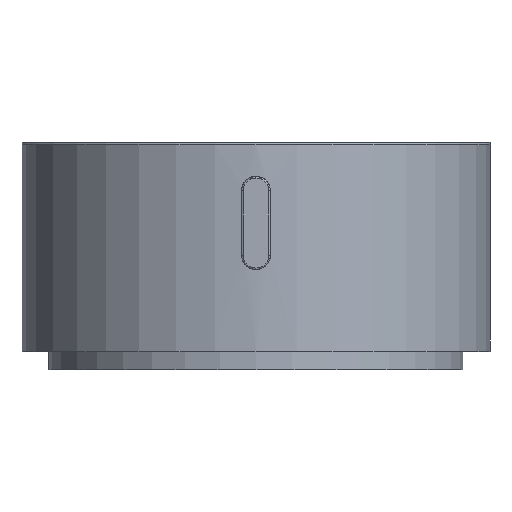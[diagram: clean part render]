
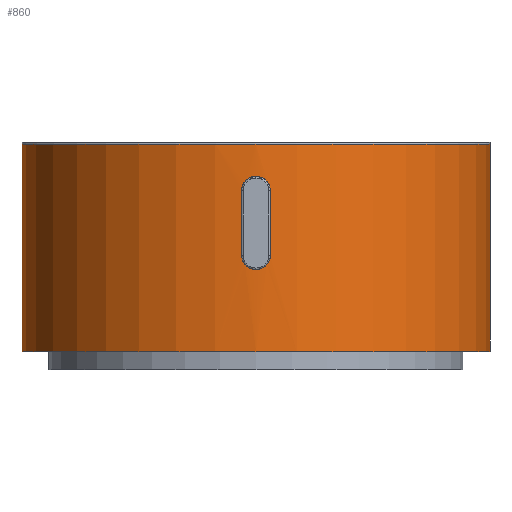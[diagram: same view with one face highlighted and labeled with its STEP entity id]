
A CAD part, front view. The second image highlights one B-rep face of the part: STEP entity #860.
In plain terms, the highlighted cylindrical face has radius 32.5 mm (diameter 65 mm), a partial arc.
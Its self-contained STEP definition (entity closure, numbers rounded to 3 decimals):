
#49=CARTESIAN_POINT('',(-32.5,0.0,45.9));
#50=VERTEX_POINT('',#49);
#51=CARTESIAN_POINT('',(32.5,0.0,45.9));
#52=VERTEX_POINT('',#51);
#60=CARTESIAN_POINT('',(0.0,0.0,45.9));
#61=DIRECTION('',(0.0,0.0,-1.0));
#62=DIRECTION('',(1.0,0.0,0.0));
#63=AXIS2_PLACEMENT_3D('',#60,#61,#62);
#64=CIRCLE('',#63,32.5);
#65=EDGE_CURVE('',#52,#50,#64,.T.);
#599=CARTESIAN_POINT('',(-2.0,-32.438,59.3));
#600=VERTEX_POINT('',#599);
#607=CARTESIAN_POINT('',(2.0,-32.438,59.3));
#608=VERTEX_POINT('',#607);
#609=CARTESIAN_POINT('',(-2.0,-32.438,59.3));
#610=CARTESIAN_POINT('',(-2.0,-32.438,59.24));
#611=CARTESIAN_POINT('',(-1.995,-32.439,59.121));
#612=CARTESIAN_POINT('',(-1.971,-32.44,58.943));
#613=CARTESIAN_POINT('',(-1.931,-32.443,58.767));
#614=CARTESIAN_POINT('',(-1.875,-32.446,58.597));
#615=CARTESIAN_POINT('',(-1.805,-32.45,58.431));
#616=CARTESIAN_POINT('',(-1.719,-32.455,58.273));
#617=CARTESIAN_POINT('',(-1.62,-32.46,58.123));
#618=CARTESIAN_POINT('',(-1.508,-32.465,57.982));
#619=CARTESIAN_POINT('',(-1.384,-32.471,57.852));
#620=CARTESIAN_POINT('',(-1.248,-32.476,57.734));
#621=CARTESIAN_POINT('',(-1.103,-32.481,57.628));
#622=CARTESIAN_POINT('',(-0.949,-32.486,57.536));
#623=CARTESIAN_POINT('',(-0.787,-32.491,57.458));
#624=CARTESIAN_POINT('',(-0.618,-32.494,57.395));
#625=CARTESIAN_POINT('',(-0.445,-32.497,57.347));
#626=CARTESIAN_POINT('',(-0.268,-32.499,57.315));
#627=CARTESIAN_POINT('',(-0.09,-32.5,57.299));
#628=CARTESIAN_POINT('',(0.09,-32.5,57.299));
#629=CARTESIAN_POINT('',(0.269,-32.499,57.315));
#630=CARTESIAN_POINT('',(0.445,-32.497,57.347));
#631=CARTESIAN_POINT('',(0.618,-32.494,57.395));
#632=CARTESIAN_POINT('',(0.787,-32.491,57.458));
#633=CARTESIAN_POINT('',(0.948,-32.486,57.536));
#634=CARTESIAN_POINT('',(1.103,-32.481,57.628));
#635=CARTESIAN_POINT('',(1.248,-32.476,57.734));
#636=CARTESIAN_POINT('',(1.384,-32.471,57.852));
#637=CARTESIAN_POINT('',(1.508,-32.465,57.982));
#638=CARTESIAN_POINT('',(1.62,-32.46,58.122));
#639=CARTESIAN_POINT('',(1.719,-32.455,58.273));
#640=CARTESIAN_POINT('',(1.804,-32.45,58.431));
#641=CARTESIAN_POINT('',(1.875,-32.446,58.596));
#642=CARTESIAN_POINT('',(1.93,-32.443,58.767));
#643=CARTESIAN_POINT('',(1.97,-32.44,58.942));
#644=CARTESIAN_POINT('',(1.995,-32.439,59.12));
#645=CARTESIAN_POINT('',(2.0,-32.438,59.24));
#646=CARTESIAN_POINT('',(2.0,-32.438,59.3));
#647=B_SPLINE_CURVE_WITH_KNOTS('',3,(#609,#610,#611,#612,#613,#614,#615,#616,#617,#618,#619,#620,#621,#622,#623,#624,#625,#626,#627,#628,#629,#630,#631,#632,#633,#634,#635,#636,#637,#638,#639,#640,#641,#642,#643,#644,#645,#646),.UNSPECIFIED.,.F.,.U.,(4,1,1,1,1,1,1,1,1,1,1,1,1,1,1,1,1,1,1,1,1,1,1,1,1,1,1,1,1,1,1,1,1,1,1,4),(0.0,0.029,0.057,0.086,0.114,0.143,0.171,0.2,0.229,0.257,0.286,0.314,0.343,0.371,0.4,0.429,0.457,0.486,0.514,0.543,0.571,0.6,0.629,0.657,0.686,0.714,0.743,0.771,0.8,0.829,0.857,0.886,0.914,0.943,0.971,1.0),.UNSPECIFIED.);
#648=EDGE_CURVE('',#600,#608,#647,.T.);
#757=CARTESIAN_POINT('',(2.0,-32.438,68.3));
#758=VERTEX_POINT('',#757);
#767=CARTESIAN_POINT('',(2.0,-32.438,68.3));
#768=DIRECTION('',(0.0,0.0,-1.0));
#769=VECTOR('',#768,9.0);
#770=LINE('',#767,#769);
#771=EDGE_CURVE('',#758,#608,#770,.T.);
#776=CARTESIAN_POINT('',(0.0,0.0,45.9));
#777=DIRECTION('',(0.0,0.0,1.0));
#778=DIRECTION('',(0.0,1.0,0.0));
#779=AXIS2_PLACEMENT_3D('',#776,#777,#778);
#780=CYLINDRICAL_SURFACE('',#779,32.5);
#781=ORIENTED_EDGE('',*,*,#65,.F.);
#782=CARTESIAN_POINT('',(32.5,0.,74.7));
#783=VERTEX_POINT('',#782);
#784=CARTESIAN_POINT('',(32.5,0.0,45.9));
#785=DIRECTION('',(0.,0.0,1.));
#786=VECTOR('',#785,28.8);
#787=LINE('',#784,#786);
#788=EDGE_CURVE('',#52,#783,#787,.T.);
#789=ORIENTED_EDGE('',*,*,#788,.T.);
#790=CARTESIAN_POINT('',(-32.5,0.,74.7));
#791=VERTEX_POINT('',#790);
#792=CARTESIAN_POINT('',(0.0,0.0,74.7));
#793=DIRECTION('',(0.0,0.0,-1.0));
#794=DIRECTION('',(1.0,0.0,0.0));
#795=AXIS2_PLACEMENT_3D('',#792,#793,#794);
#796=CIRCLE('',#795,32.5);
#797=EDGE_CURVE('',#783,#791,#796,.T.);
#798=ORIENTED_EDGE('',*,*,#797,.T.);
#799=CARTESIAN_POINT('',(-32.5,0.0,45.9));
#800=DIRECTION('',(0.,0.0,1.));
#801=VECTOR('',#800,28.8);
#802=LINE('',#799,#801);
#803=EDGE_CURVE('',#50,#791,#802,.T.);
#804=ORIENTED_EDGE('',*,*,#803,.F.);
#805=EDGE_LOOP('',(#781,#789,#798,#804));
#806=FACE_OUTER_BOUND('',#805,.T.);
#807=CARTESIAN_POINT('',(-2.0,-32.438,68.3));
#808=VERTEX_POINT('',#807);
#809=CARTESIAN_POINT('',(2.0,-32.438,68.3));
#810=CARTESIAN_POINT('',(2.0,-32.438,68.36));
#811=CARTESIAN_POINT('',(1.995,-32.439,68.479));
#812=CARTESIAN_POINT('',(1.971,-32.44,68.657));
#813=CARTESIAN_POINT('',(1.931,-32.443,68.833));
#814=CARTESIAN_POINT('',(1.875,-32.446,69.003));
#815=CARTESIAN_POINT('',(1.805,-32.45,69.169));
#816=CARTESIAN_POINT('',(1.719,-32.455,69.327));
#817=CARTESIAN_POINT('',(1.62,-32.46,69.477));
#818=CARTESIAN_POINT('',(1.508,-32.465,69.618));
#819=CARTESIAN_POINT('',(1.384,-32.471,69.748));
#820=CARTESIAN_POINT('',(1.248,-32.476,69.866));
#821=CARTESIAN_POINT('',(1.103,-32.481,69.972));
#822=CARTESIAN_POINT('',(0.949,-32.486,70.064));
#823=CARTESIAN_POINT('',(0.787,-32.491,70.142));
#824=CARTESIAN_POINT('',(0.618,-32.494,70.205));
#825=CARTESIAN_POINT('',(0.445,-32.497,70.253));
#826=CARTESIAN_POINT('',(0.268,-32.499,70.285));
#827=CARTESIAN_POINT('',(0.09,-32.5,70.301));
#828=CARTESIAN_POINT('',(-0.09,-32.5,70.301));
#829=CARTESIAN_POINT('',(-0.269,-32.499,70.285));
#830=CARTESIAN_POINT('',(-0.445,-32.497,70.253));
#831=CARTESIAN_POINT('',(-0.618,-32.494,70.205));
#832=CARTESIAN_POINT('',(-0.787,-32.491,70.142));
#833=CARTESIAN_POINT('',(-0.948,-32.486,70.064));
#834=CARTESIAN_POINT('',(-1.103,-32.481,69.972));
#835=CARTESIAN_POINT('',(-1.248,-32.476,69.866));
#836=CARTESIAN_POINT('',(-1.384,-32.471,69.748));
#837=CARTESIAN_POINT('',(-1.508,-32.465,69.618));
#838=CARTESIAN_POINT('',(-1.62,-32.46,69.478));
#839=CARTESIAN_POINT('',(-1.719,-32.455,69.327));
#840=CARTESIAN_POINT('',(-1.804,-32.45,69.169));
#841=CARTESIAN_POINT('',(-1.875,-32.446,69.004));
#842=CARTESIAN_POINT('',(-1.93,-32.443,68.833));
#843=CARTESIAN_POINT('',(-1.97,-32.44,68.658));
#844=CARTESIAN_POINT('',(-1.995,-32.439,68.48));
#845=CARTESIAN_POINT('',(-2.0,-32.438,68.36));
#846=CARTESIAN_POINT('',(-2.0,-32.438,68.3));
#847=B_SPLINE_CURVE_WITH_KNOTS('',3,(#809,#810,#811,#812,#813,#814,#815,#816,#817,#818,#819,#820,#821,#822,#823,#824,#825,#826,#827,#828,#829,#830,#831,#832,#833,#834,#835,#836,#837,#838,#839,#840,#841,#842,#843,#844,#845,#846),.UNSPECIFIED.,.F.,.U.,(4,1,1,1,1,1,1,1,1,1,1,1,1,1,1,1,1,1,1,1,1,1,1,1,1,1,1,1,1,1,1,1,1,1,1,4),(0.0,0.029,0.057,0.086,0.114,0.143,0.171,0.2,0.229,0.257,0.286,0.314,0.343,0.371,0.4,0.429,0.457,0.486,0.514,0.543,0.571,0.6,0.629,0.657,0.686,0.714,0.743,0.771,0.8,0.829,0.857,0.886,0.914,0.943,0.971,1.0),.UNSPECIFIED.);
#848=EDGE_CURVE('',#758,#808,#847,.T.);
#849=ORIENTED_EDGE('',*,*,#848,.F.);
#850=ORIENTED_EDGE('',*,*,#771,.T.);
#851=ORIENTED_EDGE('',*,*,#648,.F.);
#852=CARTESIAN_POINT('',(-2.0,-32.438,59.3));
#853=DIRECTION('',(0.0,0.0,1.0));
#854=VECTOR('',#853,9.0);
#855=LINE('',#852,#854);
#856=EDGE_CURVE('',#600,#808,#855,.T.);
#857=ORIENTED_EDGE('',*,*,#856,.T.);
#858=EDGE_LOOP('',(#849,#850,#851,#857));
#859=FACE_BOUND('',#858,.T.);
#860=ADVANCED_FACE('',(#806,#859),#780,.T.);
